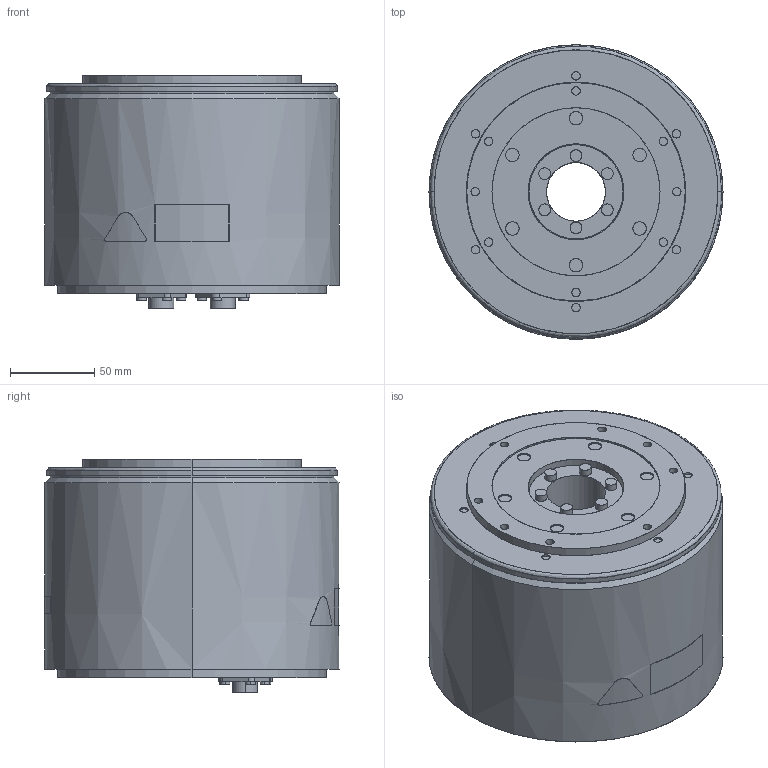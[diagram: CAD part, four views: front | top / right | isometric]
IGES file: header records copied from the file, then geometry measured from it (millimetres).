
Start section: SolidWorks IGES file using analytic representation for surfaces
Bounding box: 175 x 175.2 x 139.1 mm (x, y, z)
Surface area: 138116.6 mm2 (no closed solid volume)
Topology: 0 solids, 0 shells, 294 faces, 5906 edges, 5906 vertices
Faces by surface type: revolution 165, bspline 129
